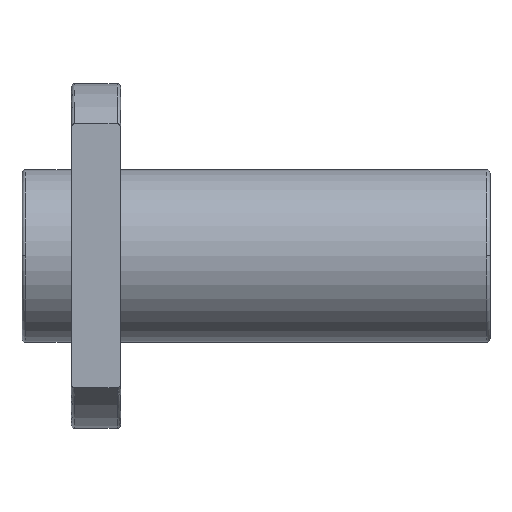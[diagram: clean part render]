
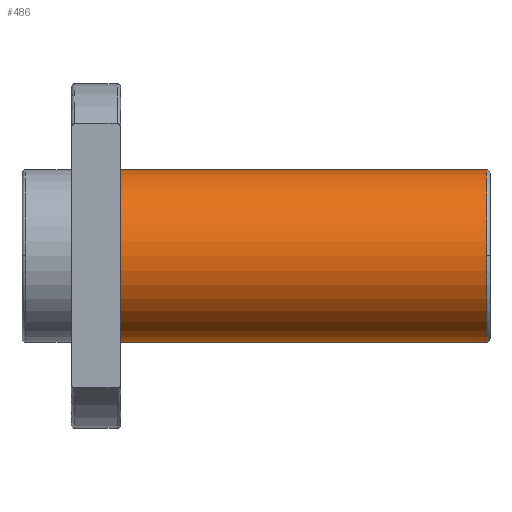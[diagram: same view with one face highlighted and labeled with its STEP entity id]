
A CAD part, top view. The second image highlights one B-rep face of the part: STEP entity #486.
In plain terms, the highlighted cylindrical face has radius 10.5 mm (diameter 21 mm), a partial arc.
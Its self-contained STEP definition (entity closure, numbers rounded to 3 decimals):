
#335 = TOROIDAL_SURFACE('',#336,10.08,0.42);
#336 = AXIS2_PLACEMENT_3D('',#337,#338,#339);
#337 = CARTESIAN_POINT('',(56.58,0.,0.));
#338 = DIRECTION('',(1.,0.,0.));
#339 = DIRECTION('',(0.,0.,-1.));
#347 = TOROIDAL_SURFACE('',#348,10.08,0.42);
#348 = AXIS2_PLACEMENT_3D('',#349,#350,#351);
#349 = CARTESIAN_POINT('',(56.58,0.,0.));
#350 = DIRECTION('',(1.,0.,0.));
#351 = DIRECTION('',(0.,0.,-1.));
#360 = VERTEX_POINT('',#361);
#361 = CARTESIAN_POINT('',(56.58,10.5,0.));
#376 = CYLINDRICAL_SURFACE('',#377,10.5);
#377 = AXIS2_PLACEMENT_3D('',#378,#379,#380);
#378 = CARTESIAN_POINT('',(34.29,0.,0.));
#379 = DIRECTION('',(1.,0.,0.));
#380 = DIRECTION('',(-0.,1.,0.));
#388 = EDGE_CURVE('',#360,#389,#391,.T.);
#389 = VERTEX_POINT('',#390);
#390 = CARTESIAN_POINT('',(56.58,0.,10.5));
#391 = SURFACE_CURVE('',#392,(#397,#404),.PCURVE_S1.);
#392 = CIRCLE('',#393,10.5);
#393 = AXIS2_PLACEMENT_3D('',#394,#395,#396);
#394 = CARTESIAN_POINT('',(56.58,0.,0.));
#395 = DIRECTION('',(1.,0.,0.));
#396 = DIRECTION('',(-0.,1.,0.));
#397 = PCURVE('',#335,#398);
#398 = DEFINITIONAL_REPRESENTATION('',(#399),#403);
#399 = LINE('',#400,#401);
#400 = CARTESIAN_POINT('',(1.571,0.));
#401 = VECTOR('',#402,1.);
#402 = DIRECTION('',(1.,0.));
#403 = ( GEOMETRIC_REPRESENTATION_CONTEXT(2) 
PARAMETRIC_REPRESENTATION_CONTEXT() REPRESENTATION_CONTEXT('2D SPACE',''
  ) );
#404 = PCURVE('',#405,#410);
#405 = CYLINDRICAL_SURFACE('',#406,10.5);
#406 = AXIS2_PLACEMENT_3D('',#407,#408,#409);
#407 = CARTESIAN_POINT('',(34.29,0.,0.));
#408 = DIRECTION('',(1.,0.,0.));
#409 = DIRECTION('',(-0.,1.,0.));
#410 = DEFINITIONAL_REPRESENTATION('',(#411),#415);
#411 = LINE('',#412,#413);
#412 = CARTESIAN_POINT('',(0.,22.29));
#413 = VECTOR('',#414,1.);
#414 = DIRECTION('',(1.,0.));
#415 = ( GEOMETRIC_REPRESENTATION_CONTEXT(2) 
PARAMETRIC_REPRESENTATION_CONTEXT() REPRESENTATION_CONTEXT('2D SPACE',''
  ) );
#486 = ADVANCED_FACE('',(#487),#405,.T.);
#487 = FACE_BOUND('',#488,.T.);
#488 = EDGE_LOOP('',(#489,#512,#541,#564,#586));
#489 = ORIENTED_EDGE('',*,*,#490,.F.);
#490 = EDGE_CURVE('',#491,#360,#493,.T.);
#491 = VERTEX_POINT('',#492);
#492 = CARTESIAN_POINT('',(12.,10.5,0.));
#493 = SURFACE_CURVE('',#494,(#498,#505),.PCURVE_S1.);
#494 = LINE('',#495,#496);
#495 = CARTESIAN_POINT('',(34.29,10.5,0.));
#496 = VECTOR('',#497,1.);
#497 = DIRECTION('',(1.,0.,0.));
#498 = PCURVE('',#405,#499);
#499 = DEFINITIONAL_REPRESENTATION('',(#500),#504);
#500 = LINE('',#501,#502);
#501 = CARTESIAN_POINT('',(0.,0.));
#502 = VECTOR('',#503,1.);
#503 = DIRECTION('',(0.,1.));
#504 = ( GEOMETRIC_REPRESENTATION_CONTEXT(2) 
PARAMETRIC_REPRESENTATION_CONTEXT() REPRESENTATION_CONTEXT('2D SPACE',''
  ) );
#505 = PCURVE('',#376,#506);
#506 = DEFINITIONAL_REPRESENTATION('',(#507),#511);
#507 = LINE('',#508,#509);
#508 = CARTESIAN_POINT('',(6.283,0.));
#509 = VECTOR('',#510,1.);
#510 = DIRECTION('',(0.,1.));
#511 = ( GEOMETRIC_REPRESENTATION_CONTEXT(2) 
PARAMETRIC_REPRESENTATION_CONTEXT() REPRESENTATION_CONTEXT('2D SPACE',''
  ) );
#512 = ORIENTED_EDGE('',*,*,#513,.T.);
#513 = EDGE_CURVE('',#491,#514,#516,.T.);
#514 = VERTEX_POINT('',#515);
#515 = CARTESIAN_POINT('',(12.,-10.5,0.));
#516 = SURFACE_CURVE('',#517,(#522,#529),.PCURVE_S1.);
#517 = CIRCLE('',#518,10.5);
#518 = AXIS2_PLACEMENT_3D('',#519,#520,#521);
#519 = CARTESIAN_POINT('',(12.,0.,0.));
#520 = DIRECTION('',(1.,0.,0.));
#521 = DIRECTION('',(-0.,1.,0.));
#522 = PCURVE('',#405,#523);
#523 = DEFINITIONAL_REPRESENTATION('',(#524),#528);
#524 = LINE('',#525,#526);
#525 = CARTESIAN_POINT('',(0.,-22.29));
#526 = VECTOR('',#527,1.);
#527 = DIRECTION('',(1.,0.));
#528 = ( GEOMETRIC_REPRESENTATION_CONTEXT(2) 
PARAMETRIC_REPRESENTATION_CONTEXT() REPRESENTATION_CONTEXT('2D SPACE',''
  ) );
#529 = PCURVE('',#530,#535);
#530 = PLANE('',#531);
#531 = AXIS2_PLACEMENT_3D('',#532,#533,#534);
#532 = CARTESIAN_POINT('',(12.,15.54,0.));
#533 = DIRECTION('',(1.,0.,0.));
#534 = DIRECTION('',(0.,1.,0.));
#535 = DEFINITIONAL_REPRESENTATION('',(#536),#540);
#536 = CIRCLE('',#537,10.5);
#537 = AXIS2_PLACEMENT_2D('',#538,#539);
#538 = CARTESIAN_POINT('',(-15.54,0.));
#539 = DIRECTION('',(1.,0.));
#540 = ( GEOMETRIC_REPRESENTATION_CONTEXT(2) 
PARAMETRIC_REPRESENTATION_CONTEXT() REPRESENTATION_CONTEXT('2D SPACE',''
  ) );
#541 = ORIENTED_EDGE('',*,*,#542,.F.);
#542 = EDGE_CURVE('',#543,#514,#545,.T.);
#543 = VERTEX_POINT('',#544);
#544 = CARTESIAN_POINT('',(56.58,-10.5,0.));
#545 = SURFACE_CURVE('',#546,(#550,#557),.PCURVE_S1.);
#546 = LINE('',#547,#548);
#547 = CARTESIAN_POINT('',(34.29,-10.5,0.));
#548 = VECTOR('',#549,1.);
#549 = DIRECTION('',(-1.,-0.,-0.));
#550 = PCURVE('',#405,#551);
#551 = DEFINITIONAL_REPRESENTATION('',(#552),#556);
#552 = LINE('',#553,#554);
#553 = CARTESIAN_POINT('',(3.142,0.));
#554 = VECTOR('',#555,1.);
#555 = DIRECTION('',(0.,-1.));
#556 = ( GEOMETRIC_REPRESENTATION_CONTEXT(2) 
PARAMETRIC_REPRESENTATION_CONTEXT() REPRESENTATION_CONTEXT('2D SPACE',''
  ) );
#557 = PCURVE('',#376,#558);
#558 = DEFINITIONAL_REPRESENTATION('',(#559),#563);
#559 = LINE('',#560,#561);
#560 = CARTESIAN_POINT('',(3.142,0.));
#561 = VECTOR('',#562,1.);
#562 = DIRECTION('',(0.,-1.));
#563 = ( GEOMETRIC_REPRESENTATION_CONTEXT(2) 
PARAMETRIC_REPRESENTATION_CONTEXT() REPRESENTATION_CONTEXT('2D SPACE',''
  ) );
#564 = ORIENTED_EDGE('',*,*,#565,.F.);
#565 = EDGE_CURVE('',#389,#543,#566,.T.);
#566 = SURFACE_CURVE('',#567,(#572,#579),.PCURVE_S1.);
#567 = CIRCLE('',#568,10.5);
#568 = AXIS2_PLACEMENT_3D('',#569,#570,#571);
#569 = CARTESIAN_POINT('',(56.58,0.,0.));
#570 = DIRECTION('',(1.,0.,0.));
#571 = DIRECTION('',(-0.,1.,0.));
#572 = PCURVE('',#405,#573);
#573 = DEFINITIONAL_REPRESENTATION('',(#574),#578);
#574 = LINE('',#575,#576);
#575 = CARTESIAN_POINT('',(0.,22.29));
#576 = VECTOR('',#577,1.);
#577 = DIRECTION('',(1.,0.));
#578 = ( GEOMETRIC_REPRESENTATION_CONTEXT(2) 
PARAMETRIC_REPRESENTATION_CONTEXT() REPRESENTATION_CONTEXT('2D SPACE',''
  ) );
#579 = PCURVE('',#347,#580);
#580 = DEFINITIONAL_REPRESENTATION('',(#581),#585);
#581 = LINE('',#582,#583);
#582 = CARTESIAN_POINT('',(1.571,0.));
#583 = VECTOR('',#584,1.);
#584 = DIRECTION('',(1.,0.));
#585 = ( GEOMETRIC_REPRESENTATION_CONTEXT(2) 
PARAMETRIC_REPRESENTATION_CONTEXT() REPRESENTATION_CONTEXT('2D SPACE',''
  ) );
#586 = ORIENTED_EDGE('',*,*,#388,.F.);
